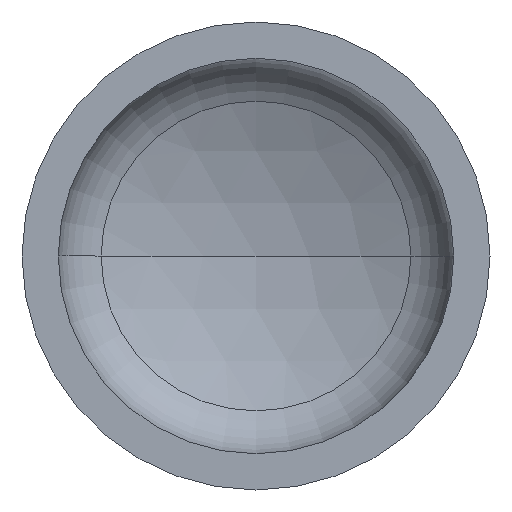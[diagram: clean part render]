
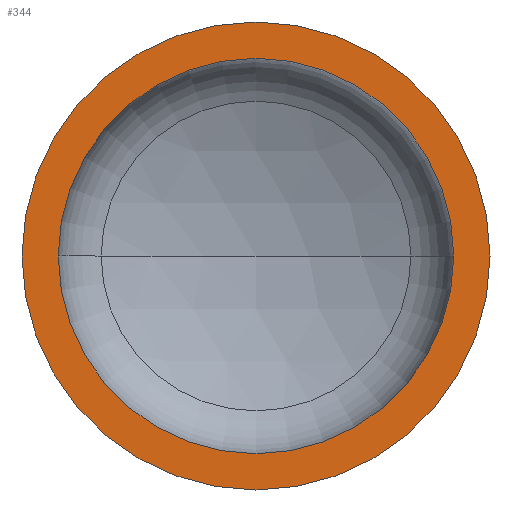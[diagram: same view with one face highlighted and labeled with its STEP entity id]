
A CAD part, front view. The second image highlights one B-rep face of the part: STEP entity #344.
In plain terms, the highlighted planar face has unit normal (0, -1, 0).
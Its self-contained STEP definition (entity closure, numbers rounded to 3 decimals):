
#6 = EDGE_LOOP ( 'NONE', ( #94, #18 ) ) ;
#18 = ORIENTED_EDGE ( 'NONE', *, *, #166, .T. ) ;
#19 = FACE_OUTER_BOUND ( 'NONE', #6, .T. ) ;
#21 = VERTEX_POINT ( 'NONE', #373 ) ;
#27 = ORIENTED_EDGE ( 'NONE', *, *, #169, .F. ) ;
#40 = EDGE_LOOP ( 'NONE', ( #27, #70 ) ) ;
#44 = AXIS2_PLACEMENT_3D ( 'NONE', #154, #175, #189 ) ;
#62 = VERTEX_POINT ( 'NONE', #249 ) ;
#70 = ORIENTED_EDGE ( 'NONE', *, *, #405, .F. ) ;
#79 = AXIS2_PLACEMENT_3D ( 'NONE', #193, #385, #395 ) ;
#94 = ORIENTED_EDGE ( 'NONE', *, *, #318, .T. ) ;
#95 = VERTEX_POINT ( 'NONE', #235 ) ;
#102 = VERTEX_POINT ( 'NONE', #242 ) ;
#121 = AXIS2_PLACEMENT_3D ( 'NONE', #401, #283, #124 ) ;
#123 = AXIS2_PLACEMENT_3D ( 'NONE', #216, #199, #201 ) ;
#124 = DIRECTION ( 'NONE',  ( 1., 0., 0. ) ) ;
#132 = DIRECTION ( 'NONE',  ( 1., 0., 0. ) ) ;
#150 = CARTESIAN_POINT ( 'NONE',  ( 0., 0., 0. ) ) ;
#153 = DIRECTION ( 'NONE',  ( 0., -1., 0. ) ) ;
#154 = CARTESIAN_POINT ( 'NONE',  ( -400., 0., 0. ) ) ;
#166 = EDGE_CURVE ( 'NONE', #21, #102, #240, .T. ) ;
#169 = EDGE_CURVE ( 'NONE', #62, #95, #372, .T. ) ;
#175 = DIRECTION ( 'NONE',  ( 0., 1., 0. ) ) ;
#183 = CIRCLE ( 'NONE', #346, 338. ) ;
#189 = DIRECTION ( 'NONE',  ( -1., 0., 0. ) ) ;
#190 = PLANE ( 'NONE',  #44 ) ;
#193 = CARTESIAN_POINT ( 'NONE',  ( 0., 0., 0. ) ) ;
#199 = DIRECTION ( 'NONE',  ( 0., -1., 0. ) ) ;
#201 = DIRECTION ( 'NONE',  ( 1., 0., 0. ) ) ;
#216 = CARTESIAN_POINT ( 'NONE',  ( 0., 0., 0. ) ) ;
#235 = CARTESIAN_POINT ( 'NONE',  ( -338., 0., 0. ) ) ;
#240 = CIRCLE ( 'NONE', #123, 400. ) ;
#242 = CARTESIAN_POINT ( 'NONE',  ( 400., 0., 0. ) ) ;
#249 = CARTESIAN_POINT ( 'NONE',  ( 338., 0., 0. ) ) ;
#281 = CIRCLE ( 'NONE', #79, 400. ) ;
#283 = DIRECTION ( 'NONE',  ( 0., -1., 0. ) ) ;
#318 = EDGE_CURVE ( 'NONE', #102, #21, #281, .T. ) ;
#336 = FACE_BOUND ( 'NONE', #40, .T. ) ;
#344 = ADVANCED_FACE ( 'NONE', ( #336, #19 ), #190, .F. ) ;
#346 = AXIS2_PLACEMENT_3D ( 'NONE', #150, #153, #132 ) ;
#372 = CIRCLE ( 'NONE', #121, 338. ) ;
#373 = CARTESIAN_POINT ( 'NONE',  ( -400., 0., 0. ) ) ;
#385 = DIRECTION ( 'NONE',  ( 0., -1., 0. ) ) ;
#395 = DIRECTION ( 'NONE',  ( 1., 0., 0. ) ) ;
#401 = CARTESIAN_POINT ( 'NONE',  ( 0., 0., 0. ) ) ;
#405 = EDGE_CURVE ( 'NONE', #95, #62, #183, .T. ) ;
